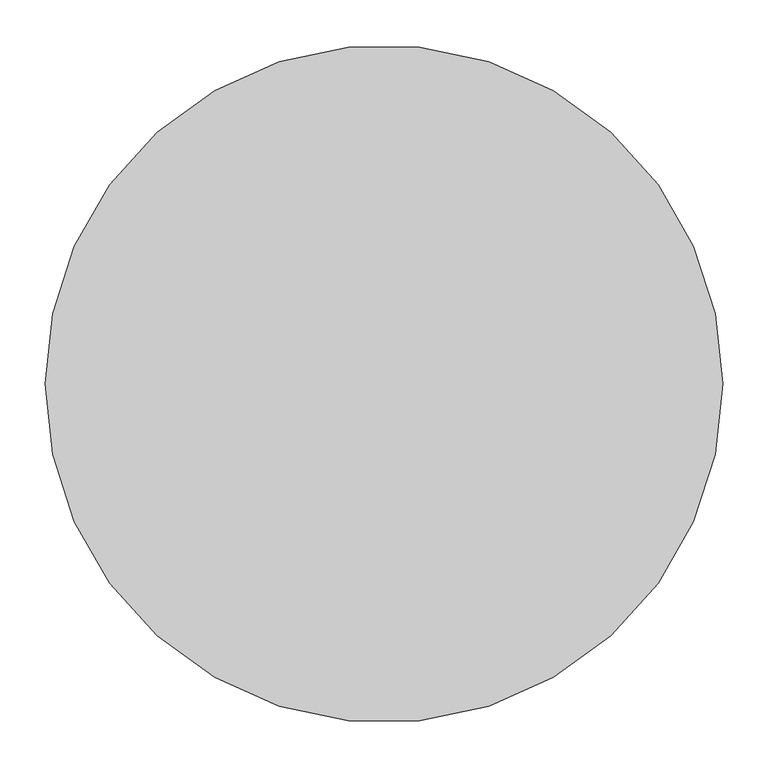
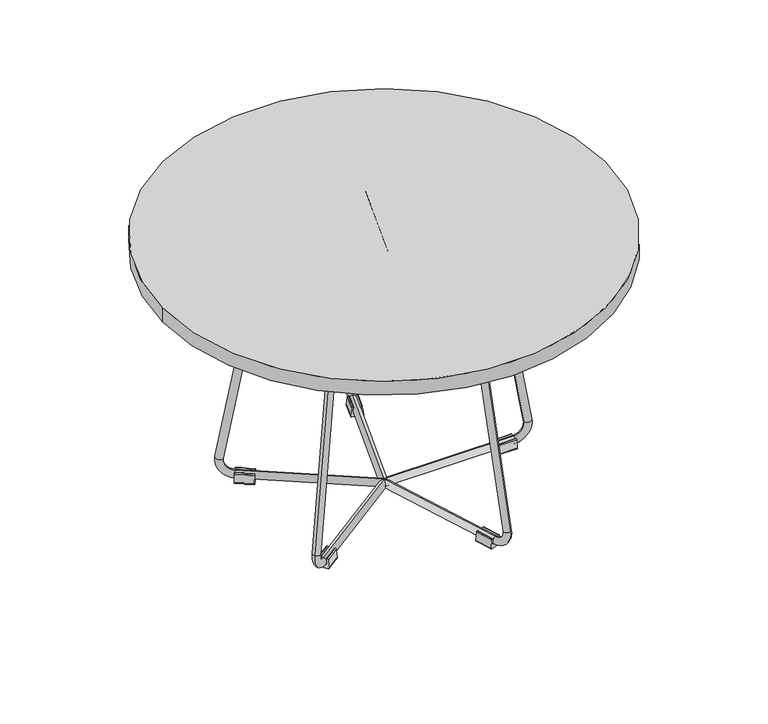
"""IFC4 building model written with IfcOpenShell, lengths in millimetres: furniture geometry, AsteriskR375 : AsteriskR375."""

from ifc_helpers import new_model, si_unit, point, frame, frame_2d, origin, origin_2d, place, context, project, spatial, polyline, circle_curve, ellipse_curve, trimmed, segment, composite_curve, outline, extrude, source, transform, mapped, element, save
from ifc_brep_helpers import plane_surface, cylinder_surface, revolved_surface, advanced_brep


def furniture_0015dd2b(model_context):
    return source(origin(), model_context, "Body", "SolidModel", [
        extrude(outline(composite_curve([segment(polyline([(-81.7889391, -91.869927), (-97.218302, -70.6332309), (-81.0379621, -58.8775259), (-65.6085993, -80.114222)]), True, "CONTINUOUS"), segment(trimmed(circle_curve(frame_2d((-73.6987692, -85.9920745)), 10.0), [point((-65.6085993, -80.114222))], [point((-67.8209167, -94.0822444))], False, "CARTESIAN"), True, "CONTINUOUS"), segment(trimmed(circle_curve(frame_2d((-73.6987692, -85.9920745)), 10.0), [point((-67.8209167, -94.0822444))], [point((-81.7889391, -91.869927))], False, "CARTESIAN"), True, "CONTINUOUS")], self_intersect=False), holes=[composite_curve([segment(trimmed(circle_curve(frame_2d((-73.6987692, -85.9920745)), 2.5), [point((-71.6762267, -84.5226114))], [point((-75.7213117, -87.4615376))], True, "CARTESIAN"), True, "CONTINUOUS"), segment(trimmed(circle_curve(frame_2d((-73.6987692, -85.9920745)), 2.5), [point((-75.7213117, -87.4615376))], [point((-71.6762267, -84.5226114))], True, "CARTESIAN"), True, "CONTINUOUS")], self_intersect=False)]), frame((0.0, 0.0, 428.0), z_axis=(0.0, 0.0, 1.0), x_axis=(1.0, 0.0, 0.0)), (0.0, 0.0, 1.0), 2.0),
        extrude(outline(composite_curve([segment(trimmed(circle_curve(frame_2d((0.0, -1.5)), 1.5), [point((0.1752619, -0.0102741))], [point((1.5, -1.5))], False, "CARTESIAN"), True, "CONTINUOUS"), segment(trimmed(circle_curve(frame_2d((-0.121686, -1.5)), 1.621686), [point((1.5, -1.5))], [point((-0.7291803, -3.0036012))], False, "CARTESIAN"), True, "CONTINUOUS"), segment(trimmed(circle_curve(frame_2d((-4.1625955, -8.1661258)), 6.2), [point((-0.7291803, -3.0036012))], [point((-10.3625955, -8.1661258))], True, "CARTESIAN"), True, "CONTINUOUS"), segment(trimmed(circle_curve(frame_2d((-4.1625955, -8.1661258)), 6.2), [point((-10.3625955, -8.1661258))], [point((-0.7291803, -13.3286503))], True, "CARTESIAN"), True, "CONTINUOUS"), segment(trimmed(circle_curve(frame_2d((-0.121686, -14.8322513)), 1.621686), [point((-0.7291803, -13.3286503))], [point((1.5, -14.8322513))], False, "CARTESIAN"), True, "CONTINUOUS"), segment(trimmed(circle_curve(frame_2d((0.0, -14.8322513)), 1.5), [point((1.5, -14.8322513))], [point((0.1752619, -16.3219773))], False, "CARTESIAN"), True, "CONTINUOUS"), segment(polyline([(0.1752619, -16.3219773), (-13.8247381, -17.969036)]), True, "CONTINUOUS"), segment(trimmed(circle_curve(frame_2d((-14.0, -16.4793102)), 1.5), [point((-13.8247381, -17.969036))], [point((-15.5, -16.4793102))], False, "CARTESIAN"), True, "CONTINUOUS"), segment(polyline([(-15.5, -16.4793102), (-15.5, 0.1470588)]), True, "CONTINUOUS"), segment(trimmed(circle_curve(frame_2d((-14.0, 0.1470588)), 1.5), [point((-15.5, 0.1470588))], [point((-13.8247381, 1.6367847))], False, "CARTESIAN"), True, "CONTINUOUS"), segment(polyline([(-13.8247381, 1.6367847), (0.1752619, -0.0102741)]), True, "CONTINUOUS")], self_intersect=False)), frame((-173.3200732, -136.0182906, 15.5), z_axis=(0.809016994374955, 0.5877852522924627, 0.0), x_axis=(0.0, 0.0, 1.0)), (0.0, 0.0, 1.0), 30.0),
        advanced_brep(
        [(0.0005218, 0.0003791, 417.4625955), (0.0005218, 0.0003791, 429.8625955), (-125.9800017, -91.5298289, 417.4625955), (-125.9800017, -91.5298289, 429.8625955), (-149.6971094, -108.7613163, 405.2635865), (-139.8177044, -101.5835084, 403.1103491), (-191.8966377, -139.4210683, 38.0323479), (-201.7760427, -146.5988761, 40.1855853), (-177.9837302, -129.3127493, 5.1374045), (-177.9837302, -129.3127493, 17.5374045), (0.0005218, 0.0003791, 17.5374045), (0.0005218, 0.0003791, 5.1374045)],
        [
            (0, 1, circle_curve(frame((0.0005218, 0.0003791, 423.6625955), z_axis=(0.809016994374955, 0.5877852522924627, 0.0), x_axis=(0.0, 0.0, 1.0)), 6.2)),
            (1, 0, circle_curve(frame((0.0005218, 0.0003791, 423.6625955), z_axis=(0.809016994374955, 0.5877852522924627, 0.0), x_axis=(0.0, 0.0, 1.0)), 6.2)),
            (0, 2),
            (2, 3, circle_curve(frame((-125.9800017, -91.5298289, 423.6625955), z_axis=(0.809016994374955, 0.5877852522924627, 0.0), x_axis=(0.0, 0.0, 1.0)), 6.2)),
            (3, 1),
            (3, 2, circle_curve(frame((-125.9800017, -91.5298289, 423.6625955), z_axis=(0.809016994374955, 0.5877852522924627, 0.0), x_axis=(0.0, 0.0, 1.0)), 6.2)),
            (4, 3, circle_curve(frame((-125.9800017, -91.5298289, 400.0943923), z_axis=(-0.5877852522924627, 0.809016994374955, 0.0), x_axis=(0.0, 0.0, 1.0)), 29.7682033)),
            (2, 5, circle_curve(frame((-125.9800017, -91.5298289, 400.0943923), z_axis=(0.5877852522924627, -0.809016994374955, 0.0), x_axis=(0.0, 0.0, 1.0)), 17.3682033)),
            (5, 4, circle_curve(frame((-144.7574069, -105.1724124, 404.1869678), z_axis=(0.14048432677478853, 0.1020678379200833, 0.984807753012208), x_axis=(-0.7967262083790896, -0.578855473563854, 0.1736481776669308)), 6.2)),
            (4, 5, circle_curve(frame((-144.7574069, -105.1724124, 404.1869678), z_axis=(0.14048432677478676, 0.102067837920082, 0.9848077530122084), x_axis=(-0.7967262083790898, -0.5788554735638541, 0.1736481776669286)), 6.2)),
            (5, 6),
            (6, 7, circle_curve(frame((-196.8363402, -143.0099722, 39.1089666), z_axis=(0.1404843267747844, 0.10206783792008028, 0.9848077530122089), x_axis=(-0.7967262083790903, -0.5788554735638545, 0.17364817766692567)), 6.2)),
            (7, 4),
            (7, 6, circle_curve(frame((-196.8363402, -143.0099722, 39.1089666), z_axis=(0.1404843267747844, 0.10206783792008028, 0.9848077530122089), x_axis=(-0.7967262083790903, -0.5788554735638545, 0.17364817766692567)), 6.2)),
            (8, 7, circle_curve(frame((-177.9837302, -129.3127493, 35.0), z_axis=(-0.5877852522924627, 0.809016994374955, 0.0), x_axis=(-0.7967262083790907, -0.5788554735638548, 0.17364817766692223)), 29.8625955)),
            (6, 9, circle_curve(frame((-177.9837302, -129.3127493, 35.0), z_axis=(0.5877852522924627, -0.809016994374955, 0.0), x_axis=(-0.7967262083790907, -0.5788554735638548, 0.17364817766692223)), 17.4625955)),
            (9, 8, circle_curve(frame((-177.9837302, -129.3127493, 11.3374045), z_axis=(-0.809016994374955, -0.5877852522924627, 0.0), x_axis=(0.0, 0.0, -1.0)), 6.2)),
            (8, 9, circle_curve(frame((-177.9837302, -129.3127493, 11.3374045), z_axis=(-0.809016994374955, -0.5877852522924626, 0.0), x_axis=(0.0, 0.0, -1.0)), 6.2)),
            (10, 11, circle_curve(frame((0.0005218, 0.0003791, 11.3374045), z_axis=(0.809016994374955, 0.5877852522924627, 0.0), x_axis=(0.0, 0.0, -1.0)), 6.2)),
            (11, 10, circle_curve(frame((0.0005218, 0.0003791, 11.3374045), z_axis=(0.809016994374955, 0.5877852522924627, 0.0), x_axis=(0.0, 0.0, -1.0)), 6.2)),
            (9, 10),
            (11, 8),
        ],
        [
            plane_surface(frame((0.0005218, 0.0003791, 430.0), z_axis=(0.809016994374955, 0.5877852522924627, 0.0), x_axis=(-0.5877852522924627, 0.809016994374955, 0.0))),
            cylinder_surface(frame((0.0005218, 0.0003791, 423.6625955), z_axis=(0.809016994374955, 0.5877852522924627, 0.0), x_axis=(0.0, 0.0, 1.0)), 6.2),
            revolved_surface(trimmed(ellipse_curve(frame((-125.9800017, -91.5298289, 423.6625955), z_axis=(0.809016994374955, 0.5877852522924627, 0.0), x_axis=(0.0, 0.0, 1.0)), 6.2, 6.2), [point((-125.9800017, -91.5298289, 417.4625955))], [point((-125.9800017, -91.5298289, 429.8625955))], True, "CARTESIAN"), (-125.9800017, -91.5298289, 400.0943923), (0.5877852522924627, -0.809016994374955, 0.0)),
            revolved_surface(trimmed(ellipse_curve(frame((-125.9800017, -91.5298289, 423.6625955), z_axis=(0.809016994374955, 0.5877852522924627, 0.0), x_axis=(0.0, 0.0, 1.0)), 6.2, 6.2), [point((-125.9800017, -91.5298289, 429.8625955))], [point((-125.9800017, -91.5298289, 417.4625955))], True, "CARTESIAN"), (-125.9800017, -91.5298289, 400.0943923), (0.5877852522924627, -0.809016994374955, 0.0)),
            cylinder_surface(frame((-144.7574069, -105.1724124, 404.1869678), z_axis=(0.1404843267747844, 0.10206783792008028, 0.9848077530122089), x_axis=(-0.7967262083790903, -0.5788554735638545, 0.17364817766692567)), 6.2),
            revolved_surface(trimmed(ellipse_curve(frame((-196.8363402, -143.0099722, 39.1089666), z_axis=(0.1404843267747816, 0.10206783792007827, 0.9848077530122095), x_axis=(-0.7967262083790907, -0.5788554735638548, 0.17364817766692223)), 6.2, 6.2), [point((-191.8966377, -139.4210683, 38.0323479))], [point((-201.7760427, -146.5988761, 40.1855853))], True, "CARTESIAN"), (-177.9837302, -129.3127493, 35.0), (0.5877852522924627, -0.809016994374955, 0.0)),
            revolved_surface(trimmed(ellipse_curve(frame((-196.8363402, -143.0099722, 39.1089666), z_axis=(0.1404843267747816, 0.10206783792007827, 0.9848077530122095), x_axis=(-0.7967262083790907, -0.5788554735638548, 0.17364817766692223)), 6.2, 6.2), [point((-201.7760427, -146.5988761, 40.1855853))], [point((-191.8966377, -139.4210683, 38.0323479))], True, "CARTESIAN"), (-177.9837302, -129.3127493, 35.0), (0.5877852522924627, -0.809016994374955, 0.0)),
            plane_surface(frame((0.0005218, 0.0003791, 5.0), z_axis=(0.809016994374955, 0.5877852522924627, 0.0), x_axis=(-0.5877852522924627, 0.809016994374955, 0.0))),
            cylinder_surface(frame((-177.9837302, -129.3127493, 11.3374045), z_axis=(-0.809016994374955, -0.5877852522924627, 0.0), x_axis=(0.0, 0.0, -1.0)), 6.2),
        ],
        [
            (0, [[1, 2]]),
            (1, [[-1, 3, 4, 5]]),
            (1, [[-2, -5, 6, -3]]),
            (2, [[7, -4, 8, 9]]),
            (3, [[-8, -6, -7, 10]]),
            (4, [[-9, 11, 12, 13]]),
            (4, [[-10, -13, 14, -11]]),
            (5, [[15, -12, 16, 17]]),
            (6, [[-16, -14, -15, 18]]),
            (7, [[19, 20]]),
            (8, [[-17, 21, -20, 22]]),
            (8, [[-18, -22, -19, -21]]),
        ],
    ),
        extrude(outline(composite_curve([segment(polyline([(62.0991985, -106.1748964), (37.1339649, -114.2865925), (30.953625, -95.2654621), (55.9188586, -87.153766)]), True, "CONTINUOUS"), segment(trimmed(circle_curve(frame_2d((59.0090285, -96.6643312)), 10.0), [point((55.9188586, -87.153766))], [point((68.5195937, -93.5741613))], False, "CARTESIAN"), True, "CONTINUOUS"), segment(trimmed(circle_curve(frame_2d((59.0090285, -96.6643312)), 10.0), [point((68.5195937, -93.5741613))], [point((62.0991985, -106.1748964))], False, "CARTESIAN"), True, "CONTINUOUS")], self_intersect=False), holes=[composite_curve([segment(trimmed(circle_curve(frame_2d((59.0090285, -96.6643312)), 2.5), [point((58.236486, -94.2866899))], [point((59.781571, -99.0419725))], True, "CARTESIAN"), True, "CONTINUOUS"), segment(trimmed(circle_curve(frame_2d((59.0090285, -96.6643312)), 2.5), [point((59.781571, -99.0419725))], [point((58.236486, -94.2866899))], True, "CARTESIAN"), True, "CONTINUOUS")], self_intersect=False)]), frame((0.0, 0.0, 428.0), z_axis=(0.0, 0.0, 1.0), x_axis=(1.0, 0.0, 0.0)), (0.0, 0.0, 1.0), 2.0),
        extrude(outline(composite_curve([segment(trimmed(circle_curve(frame_2d((0.0, -1.4999999)), 1.5), [point((0.1752619, -0.0102741))], [point((1.5, -1.4999999))], False, "CARTESIAN"), True, "CONTINUOUS"), segment(trimmed(circle_curve(frame_2d((-0.121686, -1.4999999)), 1.621686), [point((1.5, -1.4999999))], [point((-0.7291803, -3.003601))], False, "CARTESIAN"), True, "CONTINUOUS"), segment(trimmed(circle_curve(frame_2d((-4.1625955, -8.1661256)), 6.2), [point((-0.7291803, -3.003601))], [point((-10.3625955, -8.1661256))], True, "CARTESIAN"), True, "CONTINUOUS"), segment(trimmed(circle_curve(frame_2d((-4.1625955, -8.1661256)), 6.2), [point((-10.3625955, -8.1661256))], [point((-0.7291803, -13.3286502))], True, "CARTESIAN"), True, "CONTINUOUS"), segment(trimmed(circle_curve(frame_2d((-0.121686, -14.8322512)), 1.621686), [point((-0.7291803, -13.3286502))], [point((1.5, -14.8322512))], False, "CARTESIAN"), True, "CONTINUOUS"), segment(trimmed(circle_curve(frame_2d((0.0, -14.8322512)), 1.5), [point((1.5, -14.8322512))], [point((0.1752619, -16.3219771))], False, "CARTESIAN"), True, "CONTINUOUS"), segment(polyline([(0.1752619, -16.3219771), (-13.8247381, -17.9690359)]), True, "CONTINUOUS"), segment(trimmed(circle_curve(frame_2d((-14.0, -16.4793101)), 1.5), [point((-13.8247381, -17.9690359))], [point((-15.5, -16.4793101))], False, "CARTESIAN"), True, "CONTINUOUS"), segment(polyline([(-15.5, -16.4793101), (-15.5, 0.1470589)]), True, "CONTINUOUS"), segment(trimmed(circle_curve(frame_2d((-14.0, 0.1470589)), 1.5), [point((-15.5, 0.1470589))], [point((-13.8247381, 1.6367847))], False, "CARTESIAN"), True, "CONTINUOUS"), segment(polyline([(-13.8247381, 1.6367847), (0.1752619, -0.0102741)]), True, "CONTINUOUS")], self_intersect=False)), frame((75.8021113, -206.8687725, 15.5), z_axis=(-0.3090169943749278, 0.95105651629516, 0.0), x_axis=(0.0, 0.0, 1.0)), (0.0, 0.0, 1.0), 30.0),
        advanced_brep(
        [(-0.0003214, 0.0009893, 417.4625955), (-0.0003214, 0.0009893, 429.8625955), (48.1199566, -148.0979983, 417.4625955), (48.1199566, -148.0979983, 429.8625955), (57.1790856, -175.9791306, 405.2635865), (53.4054887, -164.3651935, 403.1103491), (73.2978711, -225.5876513, 38.0323479), (77.071468, -237.2015884, 40.1855853), (67.9836133, -209.2320476, 5.1374045), (67.9836133, -209.2320476, 17.5374045), (-0.0003214, 0.0009893, 17.5374045), (-0.0003214, 0.0009893, 5.1374045)],
        [
            (0, 1, circle_curve(frame((-0.0003214, 0.0009893, 423.6625955), z_axis=(-0.3090169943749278, 0.95105651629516, 0.0), x_axis=(0.0, 0.0, 1.0)), 6.2)),
            (1, 0, circle_curve(frame((-0.0003214, 0.0009893, 423.6625955), z_axis=(-0.3090169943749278, 0.95105651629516, 0.0), x_axis=(0.0, 0.0, 1.0)), 6.2)),
            (0, 2),
            (2, 3, circle_curve(frame((48.1199566, -148.0979983, 423.6625955), z_axis=(-0.3090169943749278, 0.95105651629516, 0.0), x_axis=(0.0, 0.0, 1.0)), 6.2)),
            (3, 1),
            (3, 2, circle_curve(frame((48.1199566, -148.0979983, 423.6625955), z_axis=(-0.3090169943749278, 0.95105651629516, 0.0), x_axis=(0.0, 0.0, 1.0)), 6.2)),
            (4, 3, circle_curve(frame((48.1199566, -148.0979983, 400.0943923), z_axis=(-0.95105651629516, -0.3090169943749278, 0.0), x_axis=(0.0, 0.0, 1.0)), 29.7682033)),
            (2, 5, circle_curve(frame((48.1199566, -148.0979983, 400.0943923), z_axis=(0.95105651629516, 0.3090169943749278, 0.0), x_axis=(0.0, 0.0, 1.0)), 17.3682033)),
            (5, 4, circle_curve(frame((55.2922872, -170.172162, 404.1869678), z_axis=(-0.05366023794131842, 0.1651492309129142, 0.984807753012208), x_axis=(0.30432233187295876, -0.9366078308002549, 0.1736481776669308)), 6.2)),
            (4, 5, circle_curve(frame((55.2922872, -170.172162, 404.1869678), z_axis=(-0.05366023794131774, 0.16514923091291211, 0.9848077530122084), x_axis=(0.3043223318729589, -0.9366078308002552, 0.1736481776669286)), 6.2)),
            (5, 6),
            (6, 7, circle_curve(frame((75.1846696, -231.3946198, 39.1089666), z_axis=(-0.05366023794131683, 0.1651492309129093, 0.9848077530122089), x_axis=(0.30432233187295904, -0.9366078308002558, 0.17364817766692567)), 6.2)),
            (7, 4),
            (7, 6, circle_curve(frame((75.1846696, -231.3946198, 39.1089666), z_axis=(-0.05366023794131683, 0.1651492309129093, 0.9848077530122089), x_axis=(0.30432233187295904, -0.9366078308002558, 0.17364817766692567)), 6.2)),
            (8, 7, circle_curve(frame((67.9836133, -209.2320476, 35.0), z_axis=(-0.95105651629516, -0.3090169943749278, 0.0), x_axis=(0.3043223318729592, -0.9366078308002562, 0.17364817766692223)), 29.8625955)),
            (6, 9, circle_curve(frame((67.9836133, -209.2320476, 35.0), z_axis=(0.95105651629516, 0.3090169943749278, 0.0), x_axis=(0.3043223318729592, -0.9366078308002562, 0.17364817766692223)), 17.4625955)),
            (9, 8, circle_curve(frame((67.9836133, -209.2320476, 11.3374045), z_axis=(0.3090169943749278, -0.9510565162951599, 0.0), x_axis=(0.0, 0.0, -1.0)), 6.2)),
            (8, 9, circle_curve(frame((67.9836133, -209.2320476, 11.3374045), z_axis=(0.3090169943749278, -0.9510565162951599, 0.0), x_axis=(0.0, 0.0, -1.0)), 6.2)),
            (10, 11, circle_curve(frame((-0.0003214, 0.0009893, 11.3374045), z_axis=(-0.3090169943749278, 0.95105651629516, 0.0), x_axis=(0.0, 0.0, -1.0)), 6.2)),
            (11, 10, circle_curve(frame((-0.0003214, 0.0009893, 11.3374045), z_axis=(-0.3090169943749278, 0.95105651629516, 0.0), x_axis=(0.0, 0.0, -1.0)), 6.2)),
            (9, 10),
            (11, 8),
        ],
        [
            plane_surface(frame((-0.0003214, 0.0009893, 430.0), z_axis=(-0.3090169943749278, 0.95105651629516, 0.0), x_axis=(-0.95105651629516, -0.3090169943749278, 0.0))),
            cylinder_surface(frame((-0.0003214, 0.0009893, 423.6625955), z_axis=(-0.3090169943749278, 0.95105651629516, 0.0), x_axis=(0.0, 0.0, 1.0)), 6.2),
            revolved_surface(trimmed(ellipse_curve(frame((48.1199566, -148.0979983, 423.6625955), z_axis=(-0.3090169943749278, 0.95105651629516, 0.0), x_axis=(0.0, 0.0, 1.0)), 6.2, 6.2), [point((48.1199566, -148.0979983, 417.4625955))], [point((48.1199566, -148.0979983, 429.8625955))], True, "CARTESIAN"), (48.1199566, -148.0979983, 400.0943923), (0.95105651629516, 0.3090169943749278, 0.0)),
            revolved_surface(trimmed(ellipse_curve(frame((48.1199566, -148.0979983, 423.6625955), z_axis=(-0.3090169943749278, 0.95105651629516, 0.0), x_axis=(0.0, 0.0, 1.0)), 6.2, 6.2), [point((48.1199566, -148.0979983, 429.8625955))], [point((48.1199566, -148.0979983, 417.4625955))], True, "CARTESIAN"), (48.1199566, -148.0979983, 400.0943923), (0.95105651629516, 0.3090169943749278, 0.0)),
            cylinder_surface(frame((55.2922872, -170.172162, 404.1869678), z_axis=(-0.05366023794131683, 0.1651492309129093, 0.9848077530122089), x_axis=(0.30432233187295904, -0.9366078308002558, 0.17364817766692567)), 6.2),
            revolved_surface(trimmed(ellipse_curve(frame((75.1846696, -231.3946198, 39.1089666), z_axis=(-0.05366023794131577, 0.16514923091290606, 0.9848077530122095), x_axis=(0.3043223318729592, -0.9366078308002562, 0.17364817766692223)), 6.2, 6.2), [point((73.2978711, -225.5876513, 38.0323479))], [point((77.071468, -237.2015884, 40.1855853))], True, "CARTESIAN"), (67.9836133, -209.2320476, 35.0), (0.95105651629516, 0.3090169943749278, 0.0)),
            revolved_surface(trimmed(ellipse_curve(frame((75.1846696, -231.3946198, 39.1089666), z_axis=(-0.05366023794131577, 0.16514923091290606, 0.9848077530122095), x_axis=(0.3043223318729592, -0.9366078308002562, 0.17364817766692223)), 6.2, 6.2), [point((77.071468, -237.2015884, 40.1855853))], [point((73.2978711, -225.5876513, 38.0323479))], True, "CARTESIAN"), (67.9836133, -209.2320476, 35.0), (0.95105651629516, 0.3090169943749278, 0.0)),
            plane_surface(frame((-0.0003214, 0.0009893, 5.0), z_axis=(-0.3090169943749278, 0.95105651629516, 0.0), x_axis=(-0.95105651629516, -0.3090169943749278, 0.0))),
            cylinder_surface(frame((67.9836133, -209.2320476, 11.3374045), z_axis=(0.3090169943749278, -0.95105651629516, 0.0), x_axis=(0.0, 0.0, -1.0)), 6.2),
        ],
        [
            (0, [[1, 2]]),
            (1, [[-1, 3, 4, 5]]),
            (1, [[-2, -5, 6, -3]]),
            (2, [[7, -4, 8, 9]]),
            (3, [[-8, -6, -7, 10]]),
            (4, [[-9, 11, 12, 13]]),
            (4, [[-10, -13, 14, -11]]),
            (5, [[15, -12, 16, 17]]),
            (6, [[-16, -14, -15, 18]]),
            (7, [[19, 20]]),
            (8, [[-17, 21, -20, 22]]),
            (8, [[-18, -22, -19, -21]]),
        ],
    ),
        extrude(outline(composite_curve([segment(polyline([(-112.6476649, 49.3965348), (-97.218302, 70.6332309), (-81.0379621, 58.8775259), (-96.467325, 37.6408298)]), True, "CONTINUOUS"), segment(trimmed(circle_curve(frame_2d((-104.557495, 43.5186823)), 10.0), [point((-96.467325, 37.6408298))], [point((-110.4353475, 35.4285123))], False, "CARTESIAN"), True, "CONTINUOUS"), segment(trimmed(circle_curve(frame_2d((-104.557495, 43.5186823)), 10.0), [point((-110.4353475, 35.4285123))], [point((-112.6476649, 49.3965348))], False, "CARTESIAN"), True, "CONTINUOUS")], self_intersect=False), holes=[composite_curve([segment(trimmed(circle_curve(frame_2d((-104.557495, 43.5186823)), 2.5), [point((-102.5349525, 42.0492192))], [point((-106.5800374, 44.9881454))], True, "CARTESIAN"), True, "CONTINUOUS"), segment(trimmed(circle_curve(frame_2d((-104.557495, 43.5186823)), 2.5), [point((-106.5800374, 44.9881454))], [point((-102.5349525, 42.0492192))], True, "CARTESIAN"), True, "CONTINUOUS")], self_intersect=False)]), frame((0.0, 0.0, 428.0), z_axis=(0.0, 0.0, 1.0), x_axis=(1.0, 0.0, 0.0)), (0.0, 0.0, 1.0), 2.0),
        extrude(outline(composite_curve([segment(polyline([(-0.1752619, -0.010274), (13.8247381, 1.6367848)]), True, "CONTINUOUS"), segment(trimmed(circle_curve(frame_2d((14.0, 0.1470589)), 1.5), [point((13.8247381, 1.6367848))], [point((15.5, 0.1470589))], False, "CARTESIAN"), True, "CONTINUOUS"), segment(polyline([(15.5, 0.1470589), (15.5, -16.4793101)]), True, "CONTINUOUS"), segment(trimmed(circle_curve(frame_2d((14.0, -16.4793101)), 1.5), [point((15.5, -16.4793101))], [point((13.8247381, -17.969036))], False, "CARTESIAN"), True, "CONTINUOUS"), segment(polyline([(13.8247381, -17.969036), (-0.1752619, -16.3219771)]), True, "CONTINUOUS"), segment(trimmed(circle_curve(frame_2d((0.0, -14.8322512)), 1.5), [point((-0.1752619, -16.3219771))], [point((-1.5, -14.8322512))], False, "CARTESIAN"), True, "CONTINUOUS"), segment(trimmed(circle_curve(frame_2d((0.121686, -14.8322512)), 1.621686), [point((-1.5, -14.8322512))], [point((0.7291803, -13.3286502))], False, "CARTESIAN"), True, "CONTINUOUS"), segment(trimmed(circle_curve(frame_2d((4.1625955, -8.1661256)), 6.2), [point((0.7291803, -13.3286502))], [point((10.3625955, -8.1661256))], True, "CARTESIAN"), True, "CONTINUOUS"), segment(trimmed(circle_curve(frame_2d((4.1625955, -8.1661256)), 6.2), [point((10.3625955, -8.1661256))], [point((0.7291803, -3.0036011))], True, "CARTESIAN"), True, "CONTINUOUS"), segment(trimmed(circle_curve(frame_2d((0.121686, -1.5)), 1.621686), [point((0.7291803, -3.0036011))], [point((-1.5, -1.5))], False, "CARTESIAN"), True, "CONTINUOUS"), segment(trimmed(circle_curve(frame_2d((0.0, -1.5)), 1.5), [point((-1.5, -1.5))], [point((-0.1752619, -0.010274))], False, "CARTESIAN"), True, "CONTINUOUS")], self_intersect=False)), frame((-158.6494198, 105.1716642, 15.5), z_axis=(-0.8090169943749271, 0.587785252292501, 0.0), x_axis=(0.0, 0.0, -1.0)), (0.0, 0.0, 1.0), 30.0),
        advanced_brep(
        [(0.0005218, -0.0003791, 417.4625955), (0.0005218, -0.0003791, 429.8625955), (-125.9800017, 91.5298289, 417.4625955), (-125.9800017, 91.5298289, 429.8625955), (-149.6971094, 108.7613163, 405.2635865), (-139.8177044, 101.5835084, 403.1103491), (-191.8966377, 139.4210683, 38.0323479), (-201.7760427, 146.5988761, 40.1855853), (-177.9837302, 129.3127493, 5.1374045), (-177.9837302, 129.3127493, 17.5374045), (0.0005218, -0.0003791, 17.5374045), (0.0005218, -0.0003791, 5.1374045)],
        [
            (0, 1, circle_curve(frame((0.0005218, -0.0003791, 423.6625955), z_axis=(0.8090169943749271, -0.587785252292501, 0.0), x_axis=(0.0, 0.0, 1.0)), 6.2)),
            (1, 0, circle_curve(frame((0.0005218, -0.0003791, 423.6625955), z_axis=(0.8090169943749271, -0.587785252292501, 0.0), x_axis=(0.0, 0.0, 1.0)), 6.2)),
            (0, 2),
            (2, 3, circle_curve(frame((-125.9800017, 91.5298289, 423.6625955), z_axis=(0.8090169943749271, -0.587785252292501, 0.0), x_axis=(0.0, 0.0, 1.0)), 6.2)),
            (3, 1),
            (3, 2, circle_curve(frame((-125.9800017, 91.5298289, 423.6625955), z_axis=(0.8090169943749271, -0.587785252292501, 0.0), x_axis=(0.0, 0.0, 1.0)), 6.2)),
            (4, 3, circle_curve(frame((-125.9800017, 91.5298289, 400.0943923), z_axis=(0.587785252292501, 0.8090169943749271, 0.0), x_axis=(0.0, 0.0, 1.0)), 29.7682033)),
            (2, 5, circle_curve(frame((-125.9800017, 91.5298289, 400.0943923), z_axis=(-0.587785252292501, -0.8090169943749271, 0.0), x_axis=(0.0, 0.0, 1.0)), 17.3682033)),
            (5, 4, circle_curve(frame((-144.7574069, 105.1724124, 404.1869678), z_axis=(0.1404843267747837, -0.10206783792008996, 0.984807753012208), x_axis=(-0.7967262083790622, 0.5788554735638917, 0.1736481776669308)), 6.2)),
            (4, 5, circle_curve(frame((-144.7574069, 105.1724124, 404.1869678), z_axis=(0.14048432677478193, -0.10206783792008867, 0.9848077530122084), x_axis=(-0.7967262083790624, 0.5788554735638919, 0.1736481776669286)), 6.2)),
            (5, 6),
            (6, 7, circle_curve(frame((-196.8363402, 143.0099722, 39.1089666), z_axis=(0.14048432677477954, -0.10206783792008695, 0.9848077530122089), x_axis=(-0.7967262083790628, 0.5788554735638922, 0.17364817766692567)), 6.2)),
            (7, 4),
            (7, 6, circle_curve(frame((-196.8363402, 143.0099722, 39.1089666), z_axis=(0.14048432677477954, -0.10206783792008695, 0.9848077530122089), x_axis=(-0.7967262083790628, 0.5788554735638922, 0.17364817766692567)), 6.2)),
            (8, 7, circle_curve(frame((-177.9837302, 129.3127493, 35.0), z_axis=(0.587785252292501, 0.8090169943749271, 0.0), x_axis=(-0.7967262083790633, 0.5788554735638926, 0.17364817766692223)), 29.8625955)),
            (6, 9, circle_curve(frame((-177.9837302, 129.3127493, 35.0), z_axis=(-0.587785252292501, -0.8090169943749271, 0.0), x_axis=(-0.7967262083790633, 0.5788554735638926, 0.17364817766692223)), 17.4625955)),
            (9, 8, circle_curve(frame((-177.9837302, 129.3127493, 11.3374045), z_axis=(-0.8090169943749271, 0.587785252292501, 0.0), x_axis=(0.0, 0.0, -1.0)), 6.2)),
            (8, 9, circle_curve(frame((-177.9837302, 129.3127493, 11.3374045), z_axis=(-0.809016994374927, 0.587785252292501, 0.0), x_axis=(0.0, 0.0, -1.0)), 6.2)),
            (10, 11, circle_curve(frame((0.0005218, -0.0003791, 11.3374045), z_axis=(0.8090169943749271, -0.587785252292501, 0.0), x_axis=(0.0, 0.0, -1.0)), 6.2)),
            (11, 10, circle_curve(frame((0.0005218, -0.0003791, 11.3374045), z_axis=(0.8090169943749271, -0.587785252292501, 0.0), x_axis=(0.0, 0.0, -1.0)), 6.2)),
            (9, 10),
            (11, 8),
        ],
        [
            plane_surface(frame((0.0005218, -0.0003791, 430.0), z_axis=(0.8090169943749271, -0.587785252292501, 0.0), x_axis=(0.587785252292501, 0.8090169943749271, 0.0))),
            cylinder_surface(frame((0.0005218, -0.0003791, 423.6625955), z_axis=(0.8090169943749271, -0.587785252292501, 0.0), x_axis=(0.0, 0.0, 1.0)), 6.2),
            revolved_surface(trimmed(ellipse_curve(frame((-125.9800017, 91.5298289, 423.6625955), z_axis=(0.8090169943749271, -0.587785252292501, 0.0), x_axis=(0.0, 0.0, 1.0)), 6.2, 6.2), [point((-125.9800017, 91.5298289, 417.4625955))], [point((-125.9800017, 91.5298289, 429.8625955))], True, "CARTESIAN"), (-125.9800017, 91.5298289, 400.0943923), (-0.587785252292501, -0.8090169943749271, 0.0)),
            revolved_surface(trimmed(ellipse_curve(frame((-125.9800017, 91.5298289, 423.6625955), z_axis=(0.8090169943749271, -0.587785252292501, 0.0), x_axis=(0.0, 0.0, 1.0)), 6.2, 6.2), [point((-125.9800017, 91.5298289, 429.8625955))], [point((-125.9800017, 91.5298289, 417.4625955))], True, "CARTESIAN"), (-125.9800017, 91.5298289, 400.0943923), (-0.587785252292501, -0.8090169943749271, 0.0)),
            cylinder_surface(frame((-144.7574069, 105.1724124, 404.1869678), z_axis=(0.14048432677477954, -0.10206783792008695, 0.9848077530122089), x_axis=(-0.7967262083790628, 0.5788554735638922, 0.17364817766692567)), 6.2),
            revolved_surface(trimmed(ellipse_curve(frame((-196.8363402, 143.0099722, 39.1089666), z_axis=(0.14048432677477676, -0.10206783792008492, 0.9848077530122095), x_axis=(-0.7967262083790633, 0.5788554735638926, 0.17364817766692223)), 6.2, 6.2), [point((-191.8966377, 139.4210683, 38.0323479))], [point((-201.7760427, 146.5988761, 40.1855853))], True, "CARTESIAN"), (-177.9837302, 129.3127493, 35.0), (-0.587785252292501, -0.8090169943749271, 0.0)),
            revolved_surface(trimmed(ellipse_curve(frame((-196.8363402, 143.0099722, 39.1089666), z_axis=(0.14048432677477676, -0.10206783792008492, 0.9848077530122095), x_axis=(-0.7967262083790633, 0.5788554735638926, 0.17364817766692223)), 6.2, 6.2), [point((-201.7760427, 146.5988761, 40.1855853))], [point((-191.8966377, 139.4210683, 38.0323479))], True, "CARTESIAN"), (-177.9837302, 129.3127493, 35.0), (-0.587785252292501, -0.8090169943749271, 0.0)),
            plane_surface(frame((0.0005218, -0.0003791, 5.0), z_axis=(0.8090169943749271, -0.587785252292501, 0.0), x_axis=(0.587785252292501, 0.8090169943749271, 0.0))),
            cylinder_surface(frame((-177.9837302, 129.3127493, 11.3374045), z_axis=(-0.8090169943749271, 0.587785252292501, 0.0), x_axis=(0.0, 0.0, -1.0)), 6.2),
        ],
        [
            (0, [[1, 2]]),
            (1, [[-1, 3, 4, 5]]),
            (1, [[-2, -5, 6, -3]]),
            (2, [[7, -4, 8, 9]]),
            (3, [[-8, -6, -7, 10]]),
            (4, [[-9, 11, 12, 13]]),
            (4, [[-10, -13, 14, -11]]),
            (5, [[15, -12, 16, 17]]),
            (6, [[-16, -14, -15, 18]]),
            (7, [[19, 20]]),
            (8, [[-17, 21, -20, 22]]),
            (8, [[-18, -22, -19, -21]]),
        ],
    ),
        extrude(outline(composite_curve([segment(polyline([(12.1687314, 122.3982886), (37.1339649, 114.2865925), (30.953625, 95.2654621), (5.9883915, 103.3771582)]), True, "CONTINUOUS"), segment(trimmed(circle_curve(frame_2d((9.0785614, 112.8877234)), 10.0), [point((5.9883915, 103.3771582))], [point((-0.4320038, 115.9778934))], False, "CARTESIAN"), True, "CONTINUOUS"), segment(trimmed(circle_curve(frame_2d((9.0785614, 112.8877234)), 10.0), [point((-0.4320038, 115.9778934))], [point((12.1687314, 122.3982886))], False, "CARTESIAN"), True, "CONTINUOUS")], self_intersect=False), holes=[composite_curve([segment(trimmed(circle_curve(frame_2d((9.0785614, 112.8877234)), 2.5), [point((8.3060189, 110.5100821))], [point((9.8511039, 115.2653647))], True, "CARTESIAN"), True, "CONTINUOUS"), segment(trimmed(circle_curve(frame_2d((9.0785614, 112.8877234)), 2.5), [point((9.8511039, 115.2653647))], [point((8.3060189, 110.5100821))], True, "CARTESIAN"), True, "CONTINUOUS")], self_intersect=False)]), frame((0.0, 0.0, 428.0), z_axis=(0.0, 0.0, 1.0), x_axis=(1.0, 0.0, 0.0)), (0.0, 0.0, 1.0), 2.0),
        extrude(outline(composite_curve([segment(polyline([(-0.1752619, -0.0102742), (13.8247381, 1.6367847)]), True, "CONTINUOUS"), segment(trimmed(circle_curve(frame_2d((14.0, 0.1470588)), 1.5), [point((13.8247381, 1.6367847))], [point((15.5, 0.1470588))], False, "CARTESIAN"), True, "CONTINUOUS"), segment(polyline([(15.5, 0.1470588), (15.5, -16.4793102)]), True, "CONTINUOUS"), segment(trimmed(circle_curve(frame_2d((14.0, -16.4793102)), 1.5), [point((15.5, -16.4793102))], [point((13.8247381, -17.969036))], False, "CARTESIAN"), True, "CONTINUOUS"), segment(polyline([(13.8247381, -17.969036), (-0.1752619, -16.3219772)]), True, "CONTINUOUS"), segment(trimmed(circle_curve(frame_2d((0.0, -14.8322512)), 1.5), [point((-0.1752619, -16.3219772))], [point((-1.5, -14.8322512))], False, "CARTESIAN"), True, "CONTINUOUS"), segment(trimmed(circle_curve(frame_2d((0.121686, -14.8322512)), 1.621686), [point((-1.5, -14.8322512))], [point((0.7291803, -13.3286502))], False, "CARTESIAN"), True, "CONTINUOUS"), segment(trimmed(circle_curve(frame_2d((4.1625955, -8.1661256)), 6.2), [point((0.7291803, -13.3286502))], [point((10.3625955, -8.1661256))], True, "CARTESIAN"), True, "CONTINUOUS"), segment(trimmed(circle_curve(frame_2d((4.1625955, -8.1661256)), 6.2), [point((10.3625955, -8.1661256))], [point((0.7291803, -3.0036011))], True, "CARTESIAN"), True, "CONTINUOUS"), segment(trimmed(circle_curve(frame_2d((0.121686, -1.5)), 1.621686), [point((0.7291803, -3.0036011))], [point((-1.5, -1.5))], False, "CARTESIAN"), True, "CONTINUOUS"), segment(trimmed(circle_curve(frame_2d((0.0, -1.5)), 1.5), [point((-1.5, -1.5))], [point((-0.1752619, -0.0102742))], False, "CARTESIAN"), True, "CONTINUOUS")], self_intersect=False)), frame((50.9987075, 183.3840202, 15.5), z_axis=(0.30901699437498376, 0.9510565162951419, 0.0), x_axis=(0.0, 0.0, -1.0)), (0.0, 0.0, 1.0), 30.0),
        advanced_brep(
        [(-0.0003214, -0.0009893, 417.4625955), (-0.0003214, -0.0009893, 429.8625955), (48.1199566, 148.0979983, 417.4625955), (48.1199566, 148.0979983, 429.8625955), (57.1790856, 175.9791306, 405.2635865), (53.4054887, 164.3651935, 403.1103491), (73.2978711, 225.5876513, 38.0323479), (77.071468, 237.2015884, 40.1855853), (67.9836133, 209.2320476, 5.1374045), (67.9836133, 209.2320476, 17.5374045), (-0.0003214, -0.0009893, 17.5374045), (-0.0003214, -0.0009893, 5.1374045)],
        [
            (0, 1, circle_curve(frame((-0.0003214, -0.0009893, 423.6625955), z_axis=(-0.30901699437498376, -0.9510565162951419, 0.0), x_axis=(0.0, 0.0, 1.0)), 6.2)),
            (1, 0, circle_curve(frame((-0.0003214, -0.0009893, 423.6625955), z_axis=(-0.30901699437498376, -0.9510565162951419, 0.0), x_axis=(0.0, 0.0, 1.0)), 6.2)),
            (0, 2),
            (2, 3, circle_curve(frame((48.1199566, 148.0979983, 423.6625955), z_axis=(-0.30901699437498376, -0.9510565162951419, 0.0), x_axis=(0.0, 0.0, 1.0)), 6.2)),
            (3, 1),
            (3, 2, circle_curve(frame((48.1199566, 148.0979983, 423.6625955), z_axis=(-0.30901699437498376, -0.9510565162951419, 0.0), x_axis=(0.0, 0.0, 1.0)), 6.2)),
            (4, 3, circle_curve(frame((48.1199566, 148.0979983, 400.0943923), z_axis=(0.9510565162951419, -0.30901699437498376, 0.0), x_axis=(0.0, 0.0, 1.0)), 29.7682033)),
            (2, 5, circle_curve(frame((48.1199566, 148.0979983, 400.0943923), z_axis=(-0.9510565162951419, 0.30901699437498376, 0.0), x_axis=(0.0, 0.0, 1.0)), 17.3682033)),
            (5, 4, circle_curve(frame((55.2922872, 170.172162, 404.1869678), z_axis=(-0.05366023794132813, -0.16514923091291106, 0.984807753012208), x_axis=(0.3043223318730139, 0.936607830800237, 0.1736481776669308)), 6.2)),
            (4, 5, circle_curve(frame((55.2922872, 170.172162, 404.1869678), z_axis=(-0.05366023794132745, -0.16514923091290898, 0.9848077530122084), x_axis=(0.304322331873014, 0.9366078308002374, 0.1736481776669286)), 6.2)),
            (5, 6),
            (6, 7, circle_curve(frame((75.1846696, 231.3946198, 39.1089666), z_axis=(-0.05366023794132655, -0.16514923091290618, 0.9848077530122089), x_axis=(0.30432233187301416, 0.9366078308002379, 0.17364817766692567)), 6.2)),
            (7, 4),
            (7, 6, circle_curve(frame((75.1846696, 231.3946198, 39.1089666), z_axis=(-0.05366023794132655, -0.16514923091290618, 0.9848077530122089), x_axis=(0.30432233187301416, 0.9366078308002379, 0.17364817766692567)), 6.2)),
            (8, 7, circle_curve(frame((67.9836133, 209.2320476, 35.0), z_axis=(0.9510565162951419, -0.30901699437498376, 0.0), x_axis=(0.30432233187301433, 0.9366078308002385, 0.17364817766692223)), 29.8625955)),
            (6, 9, circle_curve(frame((67.9836133, 209.2320476, 35.0), z_axis=(-0.9510565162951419, 0.30901699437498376, 0.0), x_axis=(0.30432233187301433, 0.9366078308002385, 0.17364817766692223)), 17.4625955)),
            (9, 8, circle_curve(frame((67.9836133, 209.2320476, 11.3374045), z_axis=(0.30901699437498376, 0.9510565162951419, 0.0), x_axis=(0.0, 0.0, -1.0)), 6.2)),
            (8, 9, circle_curve(frame((67.9836133, 209.2320476, 11.3374045), z_axis=(0.30901699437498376, 0.9510565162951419, 0.0), x_axis=(0.0, 0.0, -1.0)), 6.2)),
            (10, 11, circle_curve(frame((-0.0003214, -0.0009893, 11.3374045), z_axis=(-0.30901699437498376, -0.9510565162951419, 0.0), x_axis=(0.0, 0.0, -1.0)), 6.2)),
            (11, 10, circle_curve(frame((-0.0003214, -0.0009893, 11.3374045), z_axis=(-0.30901699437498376, -0.9510565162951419, 0.0), x_axis=(0.0, 0.0, -1.0)), 6.2)),
            (9, 10),
            (11, 8),
        ],
        [
            plane_surface(frame((-0.0003214, -0.0009893, 430.0), z_axis=(-0.30901699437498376, -0.9510565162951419, 0.0), x_axis=(0.9510565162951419, -0.30901699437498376, 0.0))),
            cylinder_surface(frame((-0.0003214, -0.0009893, 423.6625955), z_axis=(-0.30901699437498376, -0.9510565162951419, 0.0), x_axis=(0.0, 0.0, 1.0)), 6.2),
            revolved_surface(trimmed(ellipse_curve(frame((48.1199566, 148.0979983, 423.6625955), z_axis=(-0.30901699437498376, -0.9510565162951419, 0.0), x_axis=(0.0, 0.0, 1.0)), 6.2, 6.2), [point((48.1199566, 148.0979983, 417.4625955))], [point((48.1199566, 148.0979983, 429.8625955))], True, "CARTESIAN"), (48.1199566, 148.0979983, 400.0943923), (-0.9510565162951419, 0.30901699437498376, 0.0)),
            revolved_surface(trimmed(ellipse_curve(frame((48.1199566, 148.0979983, 423.6625955), z_axis=(-0.30901699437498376, -0.9510565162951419, 0.0), x_axis=(0.0, 0.0, 1.0)), 6.2, 6.2), [point((48.1199566, 148.0979983, 429.8625955))], [point((48.1199566, 148.0979983, 417.4625955))], True, "CARTESIAN"), (48.1199566, 148.0979983, 400.0943923), (-0.9510565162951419, 0.30901699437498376, 0.0)),
            cylinder_surface(frame((55.2922872, 170.172162, 404.1869678), z_axis=(-0.05366023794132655, -0.16514923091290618, 0.9848077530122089), x_axis=(0.30432233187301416, 0.9366078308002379, 0.17364817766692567)), 6.2),
            revolved_surface(trimmed(ellipse_curve(frame((75.1846696, 231.3946198, 39.1089666), z_axis=(-0.05366023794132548, -0.1651492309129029, 0.9848077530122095), x_axis=(0.30432233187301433, 0.9366078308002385, 0.17364817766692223)), 6.2, 6.2), [point((73.2978711, 225.5876513, 38.0323479))], [point((77.071468, 237.2015884, 40.1855853))], True, "CARTESIAN"), (67.9836133, 209.2320476, 35.0), (-0.9510565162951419, 0.30901699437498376, 0.0)),
            revolved_surface(trimmed(ellipse_curve(frame((75.1846696, 231.3946198, 39.1089666), z_axis=(-0.05366023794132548, -0.1651492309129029, 0.9848077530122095), x_axis=(0.30432233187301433, 0.9366078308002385, 0.17364817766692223)), 6.2, 6.2), [point((77.071468, 237.2015884, 40.1855853))], [point((73.2978711, 225.5876513, 38.0323479))], True, "CARTESIAN"), (67.9836133, 209.2320476, 35.0), (-0.9510565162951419, 0.30901699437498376, 0.0)),
            plane_surface(frame((-0.0003214, -0.0009893, 5.0), z_axis=(-0.30901699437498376, -0.9510565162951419, 0.0), x_axis=(0.9510565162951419, -0.30901699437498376, 0.0))),
            cylinder_surface(frame((67.9836133, 209.2320476, 11.3374045), z_axis=(0.30901699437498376, 0.9510565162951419, 0.0), x_axis=(0.0, 0.0, -1.0)), 6.2),
        ],
        [
            (0, [[1, 2]]),
            (1, [[-1, 3, 4, 5]]),
            (1, [[-2, -5, 6, -3]]),
            (2, [[7, -4, 8, 9]]),
            (3, [[-8, -6, -7, 10]]),
            (4, [[-9, 11, 12, 13]]),
            (4, [[-10, -13, 14, -11]]),
            (5, [[15, -12, 16, 17]]),
            (6, [[-16, -14, -15, 18]]),
            (7, [[19, 20]]),
            (8, [[-17, 21, -20, 22]]),
            (8, [[-18, -22, -19, -21]]),
        ],
    ),
        extrude(outline(composite_curve([segment(polyline([(120.1677904, 26.25), (120.1677904, 0.0), (100.1677904, 0.0), (100.1677904, 26.25)]), True, "CONTINUOUS"), segment(trimmed(circle_curve(frame_2d((110.1677904, 26.25)), 10.0), [point((100.1677904, 26.25))], [point((110.1677904, 36.25))], False, "CARTESIAN"), True, "CONTINUOUS"), segment(trimmed(circle_curve(frame_2d((110.1677904, 26.25)), 10.0), [point((110.1677904, 36.25))], [point((120.1677904, 26.25))], False, "CARTESIAN"), True, "CONTINUOUS")], self_intersect=False), holes=[composite_curve([segment(trimmed(circle_curve(frame_2d((110.1677904, 26.25)), 2.5), [point((107.6677904, 26.25))], [point((112.6677904, 26.25))], True, "CARTESIAN"), True, "CONTINUOUS"), segment(trimmed(circle_curve(frame_2d((110.1677904, 26.25)), 2.5), [point((112.6677904, 26.25))], [point((107.6677904, 26.25))], True, "CARTESIAN"), True, "CONTINUOUS")], self_intersect=False)]), frame((0.0, 0.0, 428.0), z_axis=(0.0, 0.0, 1.0), x_axis=(1.0, 0.0, 0.0)), (0.0, 0.0, 1.0), 2.0),
        extrude(outline(composite_curve([segment(polyline([(8.1558515, 15.6752619), (9.8029104, 1.6752619)]), True, "CONTINUOUS"), segment(trimmed(circle_curve(frame_2d((8.3131845, 1.5)), 1.5), [point((9.8029104, 1.6752619))], [point((8.3131845, 0.0))], False, "CARTESIAN"), True, "CONTINUOUS"), segment(polyline([(8.3131845, 0.0), (-8.3131845, 0.0)]), True, "CONTINUOUS"), segment(trimmed(circle_curve(frame_2d((-8.3131845, 1.5)), 1.5), [point((-8.3131845, 0.0))], [point((-9.8029104, 1.6752619))], False, "CARTESIAN"), True, "CONTINUOUS"), segment(polyline([(-9.8029104, 1.6752619), (-8.1558515, 15.6752619)]), True, "CONTINUOUS"), segment(trimmed(circle_curve(frame_2d((-6.6661256, 15.5)), 1.5), [point((-8.1558515, 15.6752619))], [point((-6.6661256, 17.0))], False, "CARTESIAN"), True, "CONTINUOUS"), segment(trimmed(circle_curve(frame_2d((-6.6661256, 15.378314)), 1.621686), [point((-6.6661256, 17.0))], [point((-5.1625246, 14.7708197))], False, "CARTESIAN"), True, "CONTINUOUS"), segment(trimmed(circle_curve(frame_2d((0.0, 11.3374045)), 6.2), [point((-5.1625246, 14.7708197))], [point((0.0, 5.1374045))], True, "CARTESIAN"), True, "CONTINUOUS"), segment(trimmed(circle_curve(frame_2d((0.0, 11.3374045)), 6.2), [point((0.0, 5.1374045))], [point((5.1625246, 14.7708197))], True, "CARTESIAN"), True, "CONTINUOUS"), segment(trimmed(circle_curve(frame_2d((6.6661256, 15.378314)), 1.621686), [point((5.1625246, 14.7708197))], [point((6.6661256, 17.0))], False, "CARTESIAN"), True, "CONTINUOUS"), segment(trimmed(circle_curve(frame_2d((6.6661256, 15.5)), 1.5), [point((6.6661256, 17.0))], [point((8.1558515, 15.6752619))], False, "CARTESIAN"), True, "CONTINUOUS")], self_intersect=False)), frame((190.1677904, 0.0, 0.0), z_axis=(1.0, 0.0, 0.0), x_axis=(0.0, 1.0, 0.0)), (0.0, 0.0, 1.0), 30.0),
        advanced_brep(
        [(-0.0012845, 0.0, 417.4625955), (-0.0012845, 0.0, 429.8625955), (155.7192064, 0.0, 417.4625955), (155.7192064, 0.0, 429.8625955), (185.0351638, 0.0, 405.2635865), (172.8235476, 0.0, 403.1103491), (237.1966493, 0.0, 38.0323479), (249.4082655, 0.0, 40.1855853), (219.9993499, 0.0, 5.1374045), (219.9993499, 0.0, 17.5374045), (-0.0012845, 0.0, 17.5374045), (-0.0012845, 0.0, 5.1374045)],
        [
            (0, 1, circle_curve(frame((-0.0012845, 0.0, 423.6625955), z_axis=(-1.0, 0.0, 0.0), x_axis=(0.0, 0.0, 1.0)), 6.2)),
            (1, 0, circle_curve(frame((-0.0012845, 0.0, 423.6625955), z_axis=(-1.0, 0.0, 0.0), x_axis=(0.0, 0.0, 1.0)), 6.2)),
            (0, 2),
            (2, 3, circle_curve(frame((155.7192064, 0.0, 423.6625955), z_axis=(-1.0, 0.0, 0.0), x_axis=(0.0, 0.0, 1.0)), 6.2)),
            (3, 1),
            (3, 2, circle_curve(frame((155.7192064, 0.0, 423.6625955), z_axis=(-1.0, 0.0, 0.0), x_axis=(0.0, 0.0, 1.0)), 6.2)),
            (4, 3, circle_curve(frame((155.7192064, 0.0, 400.0943923), z_axis=(0.0, -1.0, 0.0), x_axis=(0.0, 0.0, 1.0)), 29.7682033)),
            (2, 5, circle_curve(frame((155.7192064, 0.0, 400.0943923), z_axis=(0.0, 1.0, 0.0), x_axis=(0.0, 0.0, 1.0)), 17.3682033)),
            (5, 4, circle_curve(frame((178.9293557, 0.0, 404.1869678), z_axis=(-0.1736481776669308, 0.0, 0.984807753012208), x_axis=(0.984807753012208, 0.0, 0.1736481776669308)), 6.2)),
            (4, 5, circle_curve(frame((178.9293557, 0.0, 404.1869678), z_axis=(-0.1736481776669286, 0.0, 0.9848077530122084), x_axis=(0.9848077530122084, 0.0, 0.1736481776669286)), 6.2)),
            (5, 6),
            (6, 7, circle_curve(frame((243.3024574, 0.0, 39.1089666), z_axis=(-0.17364817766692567, 0.0, 0.9848077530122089), x_axis=(0.9848077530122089, 0.0, 0.17364817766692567)), 6.2)),
            (7, 4),
            (7, 6, circle_curve(frame((243.3024574, 0.0, 39.1089666), z_axis=(-0.17364817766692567, 0.0, 0.9848077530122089), x_axis=(0.9848077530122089, 0.0, 0.17364817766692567)), 6.2)),
            (8, 7, circle_curve(frame((219.9993499, 0.0, 35.0), z_axis=(0.0, -1.0, 0.0), x_axis=(0.9848077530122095, 0.0, 0.17364817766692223)), 29.8625955)),
            (6, 9, circle_curve(frame((219.9993499, 0.0, 35.0), z_axis=(0.0, 1.0, 0.0), x_axis=(0.9848077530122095, 0.0, 0.17364817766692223)), 17.4625955)),
            (9, 8, circle_curve(frame((219.9993499, 0.0, 11.3374045), z_axis=(1.0, 0.0, 0.0), x_axis=(0.0, 0.0, -1.0)), 6.2)),
            (8, 9, circle_curve(frame((219.9993499, 0.0, 11.3374045), z_axis=(1.0, 0.0, 0.0), x_axis=(0.0, 0.0, -1.0)), 6.2)),
            (10, 11, circle_curve(frame((-0.0012845, 0.0, 11.3374045), z_axis=(-1.0, 0.0, 0.0), x_axis=(0.0, 0.0, -1.0)), 6.2)),
            (11, 10, circle_curve(frame((-0.0012845, 0.0, 11.3374045), z_axis=(-1.0, 0.0, 0.0), x_axis=(0.0, 0.0, -1.0)), 6.2)),
            (9, 10),
            (11, 8),
        ],
        [
            plane_surface(frame((-0.0012845, 0.0, 430.0), z_axis=(-1.0, 0.0, 0.0), x_axis=(0.0, -1.0, 0.0))),
            cylinder_surface(frame((-0.0012845, 0.0, 423.6625955), z_axis=(-1.0, 0.0, 0.0), x_axis=(0.0, 0.0, 1.0)), 6.2),
            revolved_surface(trimmed(ellipse_curve(frame((155.7192064, 0.0, 423.6625955), z_axis=(-1.0, 0.0, 0.0), x_axis=(0.0, 0.0, 1.0)), 6.2, 6.2), [point((155.7192064, 0.0, 417.4625955))], [point((155.7192064, 0.0, 429.8625955))], True, "CARTESIAN"), (155.7192064, 0.0, 400.0943923), (0.0, 1.0, 0.0)),
            revolved_surface(trimmed(ellipse_curve(frame((155.7192064, 0.0, 423.6625955), z_axis=(-1.0, 0.0, 0.0), x_axis=(0.0, 0.0, 1.0)), 6.2, 6.2), [point((155.7192064, 0.0, 429.8625955))], [point((155.7192064, 0.0, 417.4625955))], True, "CARTESIAN"), (155.7192064, 0.0, 400.0943923), (0.0, 1.0, 0.0)),
            cylinder_surface(frame((178.9293557, 0.0, 404.1869678), z_axis=(-0.17364817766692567, 0.0, 0.9848077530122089), x_axis=(0.9848077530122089, 0.0, 0.17364817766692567)), 6.2),
            revolved_surface(trimmed(ellipse_curve(frame((243.3024574, 0.0, 39.1089666), z_axis=(-0.17364817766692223, 0.0, 0.9848077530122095), x_axis=(0.9848077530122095, 0.0, 0.17364817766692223)), 6.2, 6.2), [point((237.1966493, 0.0, 38.0323479))], [point((249.4082655, 0.0, 40.1855853))], True, "CARTESIAN"), (219.9993499, 0.0, 35.0), (0.0, 1.0, 0.0)),
            revolved_surface(trimmed(ellipse_curve(frame((243.3024574, 0.0, 39.1089666), z_axis=(-0.17364817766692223, 0.0, 0.9848077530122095), x_axis=(0.9848077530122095, 0.0, 0.17364817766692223)), 6.2, 6.2), [point((249.4082655, 0.0, 40.1855853))], [point((237.1966493, 0.0, 38.0323479))], True, "CARTESIAN"), (219.9993499, 0.0, 35.0), (0.0, 1.0, 0.0)),
            plane_surface(frame((-0.0012845, 0.0, 5.0), z_axis=(-1.0, 0.0, 0.0), x_axis=(0.0, -1.0, 0.0))),
            cylinder_surface(frame((219.9993499, 0.0, 11.3374045), z_axis=(1.0, 0.0, 0.0), x_axis=(0.0, 0.0, -1.0)), 6.2),
        ],
        [
            (0, [[1, 2]]),
            (1, [[-1, 3, 4, 5]]),
            (1, [[-2, -5, 6, -3]]),
            (2, [[7, -4, 8, 9]]),
            (3, [[-8, -6, -7, 10]]),
            (4, [[-9, 11, 12, 13]]),
            (4, [[-10, -13, 14, -11]]),
            (5, [[15, -12, 16, 17]]),
            (6, [[-16, -14, -15, 18]]),
            (7, [[19, 20]]),
            (8, [[-17, 21, -20, 22]]),
            (8, [[-18, -22, -19, -21]]),
        ],
    ),
        extrude(outline(composite_curve([segment(trimmed(circle_curve(origin_2d(), 375.0), [point((-375.0, 0.0))], [point((375.0, 0.0))], False, "CARTESIAN"), True, "CONTINUOUS"), segment(trimmed(circle_curve(origin_2d(), 375.0), [point((375.0, 0.0))], [point((-375.0, 0.0))], False, "CARTESIAN"), True, "CONTINUOUS")], self_intersect=False)), frame((0.0, 0.0, 430.0), z_axis=(0.0, 0.0, 1.0), x_axis=(1.0, 0.0, 0.0)), (0.0, 0.0, 1.0), 25.0),
    ])


if __name__ == "__main__":
    model = new_model("IFC4")
    model_context = context("Model", 3, world=origin())
    ifc_project = project(units=[si_unit("LENGTHUNIT", "METRE", prefix="MILLI")], contexts=[model_context])
    site = spatial("IfcSite", under=ifc_project)
    building = spatial("IfcBuilding", under=site)
    placement = place(None, origin())
    furniture_shape = furniture_0015dd2b(model_context)
    element("IfcFurniture", 1, ObjectType="AsteriskR375 : AsteriskR375", at=placement, inside=building, context=model_context, shape_type="MappedRepresentation", body=[
        mapped(furniture_shape, transform((0.0, 0.0, 0.0), x_axis=(1.0, 0.0, 0.0), y_axis=(0.0, 1.0, 0.0), z_axis=(0.0, 0.0, 1.0))),
    ])
    save(model, "model.ifc")
